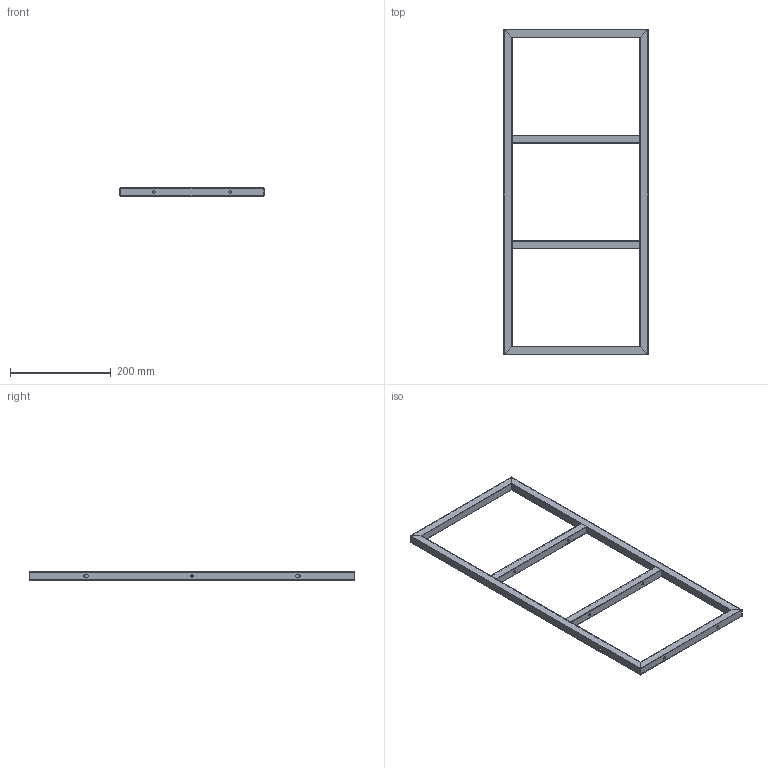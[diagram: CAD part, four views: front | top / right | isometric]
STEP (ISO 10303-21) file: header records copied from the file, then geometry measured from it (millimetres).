
FILE_DESCRIPTION (( 'STEP AP214' ), '1' );
FILE_NAME ('G326-S.STEP', '2022-05-23T05:31:13', ( '' ), ( '' ), 'SwSTEP 2.0', 'SolidWorks 2021', '' );
FILE_SCHEMA (( 'AUTOMOTIVE_DESIGN' ));
Length unit declared in the file: millimetre
Products named in the file (6): G326-S; FrameA_646F; FrameB_284; FrameA_286D; FrameA_646R; FrameA_286U
Assembly tree (6 placements, depth 2):
  G326-S
    FrameA_646R
    FrameA_646F
    FrameA_286U
    FrameA_286D
    FrameB_284  x2
Bounding box: 286 x 646 x 16 mm (x, y, z)
Volume: 211516.5 mm3; surface area: 264945.2 mm2
Topology: 6 solids, 6 shells, 128 faces, 348 edges, 232 vertices
Faces by surface type: plane 68, cylinder 60
Entity records: 3662 total; most frequent: CARTESIAN_POINT 691, ORIENTED_EDGE 576, DIRECTION 550, EDGE_CURVE 288, VECTOR 192, VERTEX_POINT 192, LINE 192, AXIS2_PLACEMENT_3D 179
